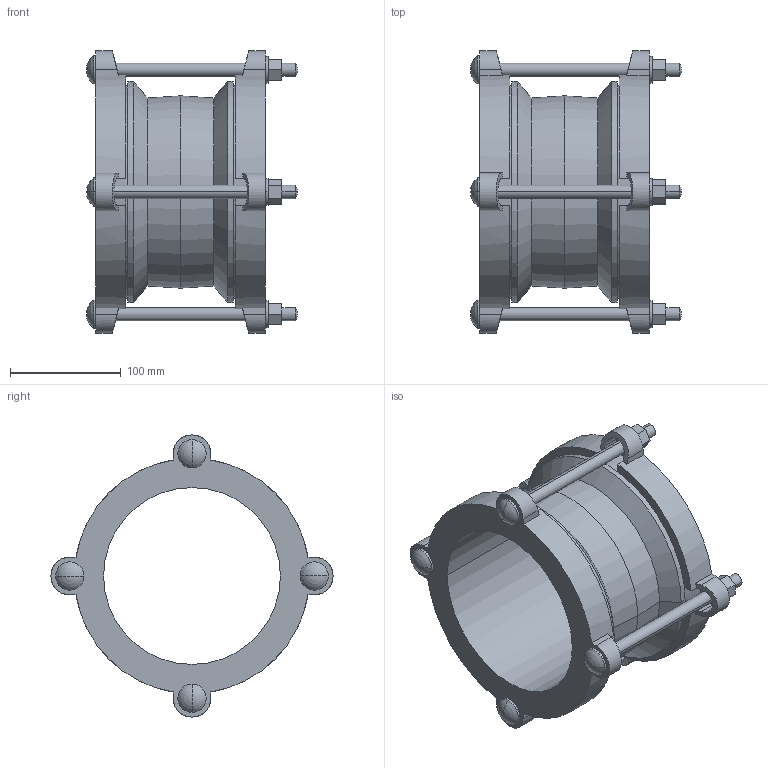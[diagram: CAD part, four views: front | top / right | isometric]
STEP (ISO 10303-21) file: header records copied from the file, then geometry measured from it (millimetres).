
FILE_DESCRIPTION((''),'2;1');
FILE_NAME('BIM_12393_6','2018-09-06T',('MReader'),(''),'CREO PARAMETRIC BY PTC INC, 2016130','CREO PARAMETRIC BY PTC INC, 2016130','');
FILE_SCHEMA(('CONFIG_CONTROL_DESIGN'));
Length unit declared in the file: millimetre
Products named in the file (1): BIM_12393_6
Bounding box: 190.33 x 254.5 x 254.5 mm (x, y, z)
Volume: 1445425.3 mm3; surface area: 276398.6 mm2
Topology: 1 solids, 1 shells, 198 faces, 532 edges, 338 vertices
Faces by surface type: plane 100, cylinder 66, sphere 16, cone 16
Entity records: 6404 total; most frequent: CARTESIAN_POINT 1392, DIRECTION 1050, ORIENTED_EDGE 1032, EDGE_CURVE 516, AXIS2_PLACEMENT_3D 384, VERTEX_POINT 338, VECTOR 282, LINE 282
